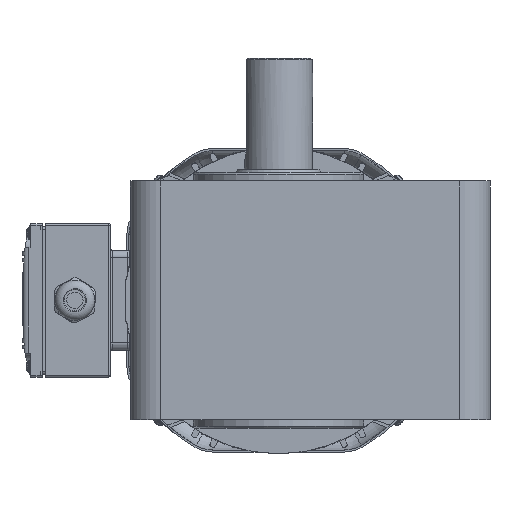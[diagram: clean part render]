
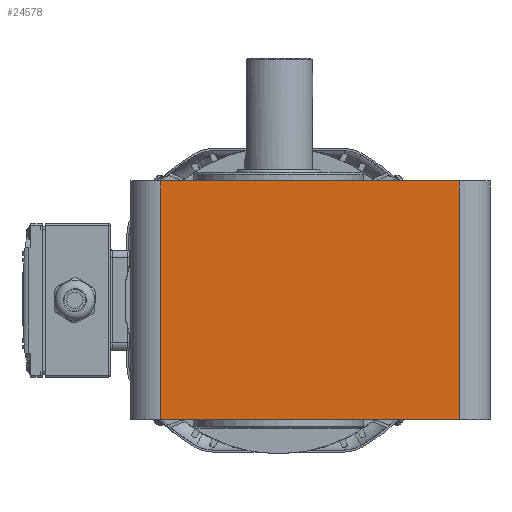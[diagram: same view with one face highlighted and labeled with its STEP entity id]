
A CAD part, left-side view. The second image highlights one B-rep face of the part: STEP entity #24578.
In plain terms, the highlighted planar face has unit normal (-1, 0, 0).
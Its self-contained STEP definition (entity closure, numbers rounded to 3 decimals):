
#679=PLANE('',#26895);
#1767=FACE_OUTER_BOUND('',#3232,.T.);
#3232=EDGE_LOOP('',(#19424,#19425,#19426,#19427));
#6405=LINE('',#41228,#8318);
#6484=LINE('',#41500,#8397);
#6485=LINE('',#41503,#8398);
#6486=LINE('',#41504,#8399);
#8318=VECTOR('',#32286,175.);
#8397=VECTOR('',#32571,140.);
#8398=VECTOR('',#32574,140.);
#8399=VECTOR('',#32575,175.);
#10779=VERTEX_POINT('',#41225);
#10780=VERTEX_POINT('',#41227);
#10870=VERTEX_POINT('',#41498);
#10871=VERTEX_POINT('',#41502);
#13763=EDGE_CURVE('',#10780,#10779,#6405,.T.);
#13896=EDGE_CURVE('',#10780,#10870,#6484,.T.);
#13897=EDGE_CURVE('',#10871,#10779,#6485,.T.);
#13898=EDGE_CURVE('',#10871,#10870,#6486,.T.);
#19424=ORIENTED_EDGE('',*,*,#13897,.F.);
#19425=ORIENTED_EDGE('',*,*,#13898,.T.);
#19426=ORIENTED_EDGE('',*,*,#13896,.F.);
#19427=ORIENTED_EDGE('',*,*,#13763,.T.);
#24578=ADVANCED_FACE('',(#1767),#679,.T.);
#26895=AXIS2_PLACEMENT_3D('',#41501,#32572,#32573);
#32286=DIRECTION('',(0.,-1.,0.));
#32571=DIRECTION('',(0.,0.,1.));
#32572=DIRECTION('center_axis',(-1.,0.,0.));
#32573=DIRECTION('ref_axis',(0.,0.,1.));
#32574=DIRECTION('',(0.,0.,-1.));
#32575=DIRECTION('',(0.,1.,0.));
#41225=CARTESIAN_POINT('',(-242.79,-111.324,-96.));
#41227=CARTESIAN_POINT('',(-242.79,63.676,-96.));
#41228=CARTESIAN_POINT('',(-242.79,63.676,-96.));
#41498=CARTESIAN_POINT('',(-242.79,63.676,44.));
#41500=CARTESIAN_POINT('',(-242.79,63.676,-96.));
#41501=CARTESIAN_POINT('Origin',(-242.79,-129.324,-96.));
#41502=CARTESIAN_POINT('',(-242.79,-111.324,44.));
#41503=CARTESIAN_POINT('',(-242.79,-111.324,44.));
#41504=CARTESIAN_POINT('',(-242.79,-111.324,44.));
